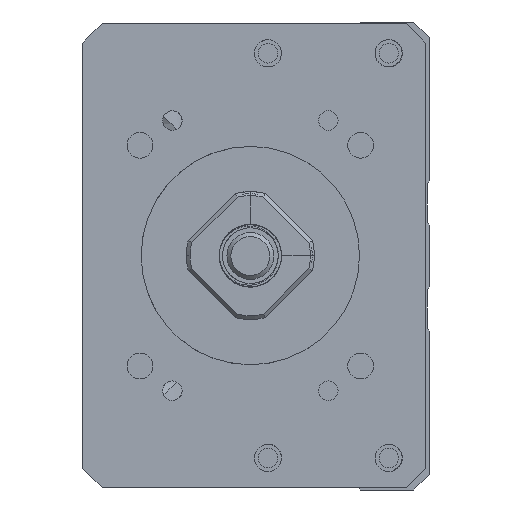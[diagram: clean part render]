
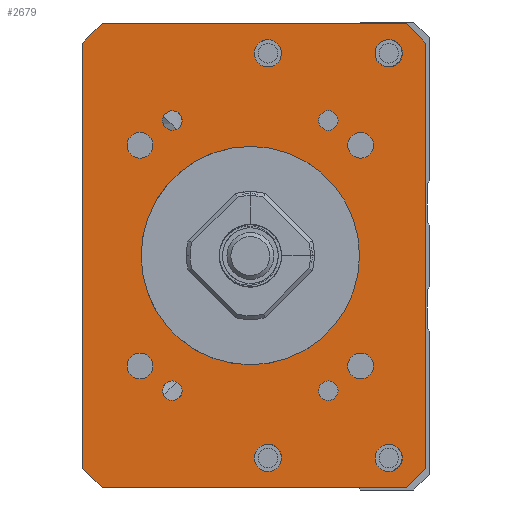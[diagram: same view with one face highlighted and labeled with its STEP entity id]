
A CAD part, left-side view. The second image highlights one B-rep face of the part: STEP entity #2679.
In plain terms, the highlighted planar face has unit normal (-1, 0, 0).
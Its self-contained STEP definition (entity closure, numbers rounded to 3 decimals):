
#1015=LINE('',#14342,#1839);
#1017=LINE('',#14366,#1841);
#1018=LINE('',#14368,#1842);
#1019=LINE('',#14370,#1843);
#1020=LINE('',#14372,#1844);
#1021=LINE('',#14374,#1845);
#1022=LINE('',#14376,#1846);
#1023=LINE('',#14378,#1847);
#1839=VECTOR('',#11471,1.);
#1841=VECTOR('',#11495,1.);
#1842=VECTOR('',#11496,1.);
#1843=VECTOR('',#11497,1.);
#1844=VECTOR('',#11498,1.);
#1845=VECTOR('',#11499,1.);
#1846=VECTOR('',#11500,1.);
#1847=VECTOR('',#11501,1.);
#2679=ADVANCED_FACE('',(#3665,#3666,#3667,#3668,#3669,#3670,#3671,#3672,
#3673,#3674,#3675,#3676,#3677,#3678),#3293,.F.);
#3293=PLANE('',#10468);
#3665=FACE_BOUND('',#4110,.T.);
#3666=FACE_BOUND('',#4111,.T.);
#3667=FACE_BOUND('',#4112,.T.);
#3668=FACE_BOUND('',#4113,.T.);
#3669=FACE_BOUND('',#4114,.T.);
#3670=FACE_BOUND('',#4115,.T.);
#3671=FACE_BOUND('',#4116,.T.);
#3672=FACE_BOUND('',#4117,.T.);
#3673=FACE_BOUND('',#4118,.T.);
#3674=FACE_BOUND('',#4119,.T.);
#3675=FACE_BOUND('',#4120,.T.);
#3676=FACE_BOUND('',#4121,.T.);
#3677=FACE_BOUND('',#4122,.T.);
#3678=FACE_BOUND('',#4123,.T.);
#4110=EDGE_LOOP('',(#4997));
#4111=EDGE_LOOP('',(#4998));
#4112=EDGE_LOOP('',(#4999));
#4113=EDGE_LOOP('',(#5000));
#4114=EDGE_LOOP('',(#5001));
#4115=EDGE_LOOP('',(#5002));
#4116=EDGE_LOOP('',(#5003));
#4117=EDGE_LOOP('',(#5004));
#4118=EDGE_LOOP('',(#5005));
#4119=EDGE_LOOP('',(#5006,#5007,#5008,#5009,#5010,#5011,#5012,#5013));
#4120=EDGE_LOOP('',(#5014));
#4121=EDGE_LOOP('',(#5015));
#4122=EDGE_LOOP('',(#5016));
#4123=EDGE_LOOP('',(#5017));
#4997=ORIENTED_EDGE('',*,*,#8726,.F.);
#4998=ORIENTED_EDGE('',*,*,#8727,.F.);
#4999=ORIENTED_EDGE('',*,*,#8728,.F.);
#5000=ORIENTED_EDGE('',*,*,#8729,.F.);
#5001=ORIENTED_EDGE('',*,*,#8730,.F.);
#5002=ORIENTED_EDGE('',*,*,#8731,.T.);
#5003=ORIENTED_EDGE('',*,*,#8732,.F.);
#5004=ORIENTED_EDGE('',*,*,#8733,.F.);
#5005=ORIENTED_EDGE('',*,*,#8734,.F.);
#5006=ORIENTED_EDGE('',*,*,#8723,.T.);
#5007=ORIENTED_EDGE('',*,*,#8735,.T.);
#5008=ORIENTED_EDGE('',*,*,#8736,.F.);
#5009=ORIENTED_EDGE('',*,*,#8737,.T.);
#5010=ORIENTED_EDGE('',*,*,#8738,.F.);
#5011=ORIENTED_EDGE('',*,*,#8739,.T.);
#5012=ORIENTED_EDGE('',*,*,#8740,.T.);
#5013=ORIENTED_EDGE('',*,*,#8741,.T.);
#5014=ORIENTED_EDGE('',*,*,#8742,.F.);
#5015=ORIENTED_EDGE('',*,*,#8743,.F.);
#5016=ORIENTED_EDGE('',*,*,#8744,.F.);
#5017=ORIENTED_EDGE('',*,*,#8703,.F.);
#7729=VERTEX_POINT('',#14281);
#7749=VERTEX_POINT('',#14341);
#7750=VERTEX_POINT('',#14343);
#7752=VERTEX_POINT('',#14349);
#7753=VERTEX_POINT('',#14351);
#7754=VERTEX_POINT('',#14353);
#7755=VERTEX_POINT('',#14355);
#7756=VERTEX_POINT('',#14357);
#7757=VERTEX_POINT('',#14359);
#7758=VERTEX_POINT('',#14361);
#7759=VERTEX_POINT('',#14363);
#7760=VERTEX_POINT('',#14365);
#7761=VERTEX_POINT('',#14367);
#7762=VERTEX_POINT('',#14369);
#7763=VERTEX_POINT('',#14371);
#7764=VERTEX_POINT('',#14373);
#7765=VERTEX_POINT('',#14375);
#7766=VERTEX_POINT('',#14377);
#7767=VERTEX_POINT('',#14380);
#7768=VERTEX_POINT('',#14382);
#7769=VERTEX_POINT('',#14384);
#8703=EDGE_CURVE('',#7729,#7729,#10081,.T.);
#8723=EDGE_CURVE('',#7750,#7749,#1015,.T.);
#8726=EDGE_CURVE('',#7752,#7752,#10090,.T.);
#8727=EDGE_CURVE('',#7753,#7753,#10091,.T.);
#8728=EDGE_CURVE('',#7754,#7754,#10092,.T.);
#8729=EDGE_CURVE('',#7755,#7755,#10093,.T.);
#8730=EDGE_CURVE('',#7756,#7756,#10094,.T.);
#8731=EDGE_CURVE('',#7757,#7757,#10095,.T.);
#8732=EDGE_CURVE('',#7758,#7758,#10096,.T.);
#8733=EDGE_CURVE('',#7759,#7759,#10097,.T.);
#8734=EDGE_CURVE('',#7760,#7760,#10098,.T.);
#8735=EDGE_CURVE('',#7749,#7761,#1017,.T.);
#8736=EDGE_CURVE('',#7762,#7761,#1018,.T.);
#8737=EDGE_CURVE('',#7762,#7763,#1019,.T.);
#8738=EDGE_CURVE('',#7764,#7763,#1020,.T.);
#8739=EDGE_CURVE('',#7764,#7765,#1021,.T.);
#8740=EDGE_CURVE('',#7765,#7766,#1022,.T.);
#8741=EDGE_CURVE('',#7766,#7750,#1023,.T.);
#8742=EDGE_CURVE('',#7767,#7767,#10099,.T.);
#8743=EDGE_CURVE('',#7768,#7768,#10100,.T.);
#8744=EDGE_CURVE('',#7769,#7769,#10101,.T.);
#10081=CIRCLE('',#10445,14.);
#10090=CIRCLE('',#10456,1.65);
#10091=CIRCLE('',#10457,1.65);
#10092=CIRCLE('',#10458,1.65);
#10093=CIRCLE('',#10459,1.65);
#10094=CIRCLE('',#10460,1.25);
#10095=CIRCLE('',#10461,1.75);
#10096=CIRCLE('',#10462,1.25);
#10097=CIRCLE('',#10463,1.75);
#10098=CIRCLE('',#10464,1.25);
#10099=CIRCLE('',#10465,1.75);
#10100=CIRCLE('',#10466,1.75);
#10101=CIRCLE('',#10467,1.25);
#10445=AXIS2_PLACEMENT_3D('',#14280,#11445,#11446);
#10456=AXIS2_PLACEMENT_3D('',#14348,#11477,#11478);
#10457=AXIS2_PLACEMENT_3D('',#14350,#11479,#11480);
#10458=AXIS2_PLACEMENT_3D('',#14352,#11481,#11482);
#10459=AXIS2_PLACEMENT_3D('',#14354,#11483,#11484);
#10460=AXIS2_PLACEMENT_3D('',#14356,#11485,#11486);
#10461=AXIS2_PLACEMENT_3D('',#14358,#11487,#11488);
#10462=AXIS2_PLACEMENT_3D('',#14360,#11489,#11490);
#10463=AXIS2_PLACEMENT_3D('',#14362,#11491,#11492);
#10464=AXIS2_PLACEMENT_3D('',#14364,#11493,#11494);
#10465=AXIS2_PLACEMENT_3D('',#14379,#11502,#11503);
#10466=AXIS2_PLACEMENT_3D('',#14381,#11504,#11505);
#10467=AXIS2_PLACEMENT_3D('',#14383,#11506,#11507);
#10468=AXIS2_PLACEMENT_3D('',#14385,#11508,#11509);
#11445=DIRECTION('',(-1.,0.,0.));
#11446=DIRECTION('',(0.,1.,0.));
#11471=DIRECTION('',(0.,0.,-1.));
#11477=DIRECTION('',(-1.,0.,0.));
#11478=DIRECTION('',(0.,0.,1.));
#11479=DIRECTION('',(-1.,0.,0.));
#11480=DIRECTION('',(0.,0.,1.));
#11481=DIRECTION('',(-1.,0.,0.));
#11482=DIRECTION('',(0.,0.,1.));
#11483=DIRECTION('',(-1.,0.,0.));
#11484=DIRECTION('',(0.,0.,1.));
#11485=DIRECTION('',(-1.,0.,0.));
#11486=DIRECTION('',(0.,1.,0.));
#11487=DIRECTION('',(1.,0.,0.));
#11488=DIRECTION('',(0.,0.,1.));
#11489=DIRECTION('',(-1.,0.,0.));
#11490=DIRECTION('',(0.,1.,0.));
#11491=DIRECTION('',(-1.,0.,0.));
#11492=DIRECTION('',(0.,0.,1.));
#11493=DIRECTION('',(-1.,0.,0.));
#11494=DIRECTION('',(0.,1.,0.));
#11495=DIRECTION('',(0.,-0.707,-0.707));
#11496=DIRECTION('',(0.,1.,0.));
#11497=DIRECTION('',(0.,-0.707,0.707));
#11498=DIRECTION('',(0.,0.,-1.));
#11499=DIRECTION('',(0.,0.707,0.707));
#11500=DIRECTION('',(0.,1.,0.));
#11501=DIRECTION('',(0.,0.707,-0.707));
#11502=DIRECTION('',(-1.,0.,0.));
#11503=DIRECTION('',(0.,0.,1.));
#11504=DIRECTION('',(-1.,0.,0.));
#11505=DIRECTION('',(0.,0.,1.));
#11506=DIRECTION('',(-1.,0.,0.));
#11507=DIRECTION('',(0.,1.,0.));
#11508=DIRECTION('',(1.,0.,0.));
#11509=DIRECTION('',(0.,-1.,0.));
#14280=CARTESIAN_POINT('',(-211.,0.,-300.));
#14281=CARTESIAN_POINT('',(-211.,14.,-300.));
#14341=CARTESIAN_POINT('',(-211.,21.499,-327.25));
#14342=CARTESIAN_POINT('',(-211.,21.499,-270.25));
#14343=CARTESIAN_POINT('',(-211.,21.499,-272.75));
#14348=CARTESIAN_POINT('',(-211.,14.142,-285.858));
#14349=CARTESIAN_POINT('',(-211.,14.142,-284.208));
#14350=CARTESIAN_POINT('',(-211.,-14.142,-285.858));
#14351=CARTESIAN_POINT('',(-211.,-14.142,-284.208));
#14352=CARTESIAN_POINT('',(-211.,14.142,-314.142));
#14353=CARTESIAN_POINT('',(-211.,14.142,-312.492));
#14354=CARTESIAN_POINT('',(-211.,-14.142,-314.142));
#14355=CARTESIAN_POINT('',(-211.,-14.142,-312.492));
#14356=CARTESIAN_POINT('',(-211.,-10.,-317.321));
#14357=CARTESIAN_POINT('',(-211.,-8.75,-317.321));
#14358=CARTESIAN_POINT('',(-211.,-2.25,-325.936));
#14359=CARTESIAN_POINT('',(-211.,-2.25,-324.186));
#14360=CARTESIAN_POINT('',(-211.,10.,-282.679));
#14361=CARTESIAN_POINT('',(-211.,11.25,-282.679));
#14362=CARTESIAN_POINT('',(-211.,-2.25,-274.064));
#14363=CARTESIAN_POINT('',(-211.,-2.25,-272.314));
#14364=CARTESIAN_POINT('',(-211.,10.,-317.321));
#14365=CARTESIAN_POINT('',(-211.,11.25,-317.321));
#14366=CARTESIAN_POINT('',(-211.,18.999,-329.75));
#14367=CARTESIAN_POINT('',(-211.,18.999,-329.75));
#14368=CARTESIAN_POINT('',(-211.,-22.501,-329.75));
#14369=CARTESIAN_POINT('',(-211.,-20.001,-329.75));
#14370=CARTESIAN_POINT('',(-211.,-22.501,-327.25));
#14371=CARTESIAN_POINT('',(-211.,-22.501,-327.25));
#14372=CARTESIAN_POINT('',(-211.,-22.501,-270.25));
#14373=CARTESIAN_POINT('',(-211.,-22.501,-272.75));
#14374=CARTESIAN_POINT('',(-211.,-22.501,-272.75));
#14375=CARTESIAN_POINT('',(-211.,-20.001,-270.25));
#14376=CARTESIAN_POINT('',(-211.,-22.501,-270.25));
#14377=CARTESIAN_POINT('',(-211.,18.999,-270.25));
#14378=CARTESIAN_POINT('',(-211.,18.999,-270.25));
#14379=CARTESIAN_POINT('',(-211.,-17.75,-274.064));
#14380=CARTESIAN_POINT('',(-211.,-17.75,-272.314));
#14381=CARTESIAN_POINT('',(-211.,-17.75,-325.936));
#14382=CARTESIAN_POINT('',(-211.,-17.75,-324.186));
#14383=CARTESIAN_POINT('',(-211.,-10.,-282.679));
#14384=CARTESIAN_POINT('',(-211.,-8.75,-282.679));
#14385=CARTESIAN_POINT('',(-211.,-22.501,-270.25));
